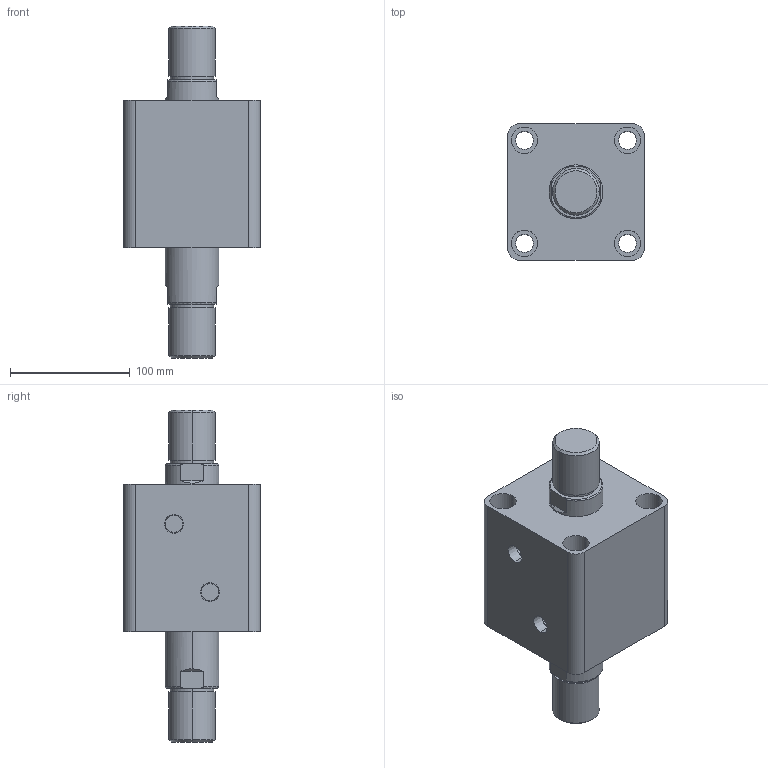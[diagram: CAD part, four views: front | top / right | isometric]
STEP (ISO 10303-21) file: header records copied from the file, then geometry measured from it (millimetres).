
FILE_DESCRIPTION (( 'STEP AP203' ), '1' );
FILE_NAME ('HTB-SW80-30W.STEP', '2019-10-07T10:21:34', ( '微软用户' ), ( '微软中国' ), 'SwSTEP 2.0', 'SolidWorks 2012', '' );
FILE_SCHEMA (( 'CONFIG_CONTROL_DESIGN' ));
Length unit declared in the file: millimetre
Products named in the file (3): HTB-SW80-30W; HTB-SW80-30W活塞杆; HTB-SW80-30掛极
Assembly tree (2 placements, depth 2):
  HTB-SW80-30W
    HTB-SW80-30掛极
    HTB-SW80-30W活塞杆
Bounding box: 114 x 114 x 277 mm (x, y, z)
Volume: 1575603.6 mm3; surface area: 184212.9 mm2
Topology: 2 solids, 2 shells, 108 faces, 240 edges, 156 vertices
Faces by surface type: cylinder 52, plane 36, torus 12, cone 8
Entity records: 3449 total; most frequent: CARTESIAN_POINT 629, DIRECTION 586, ORIENTED_EDGE 480, AXIS2_PLACEMENT_3D 249, EDGE_CURVE 240, VERTEX_POINT 156, EDGE_LOOP 138, CIRCLE 136
